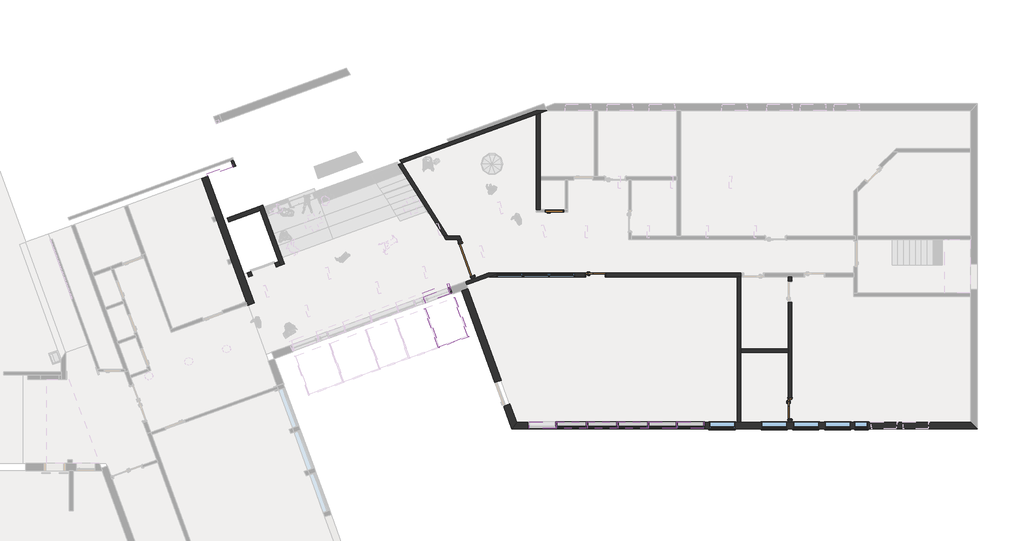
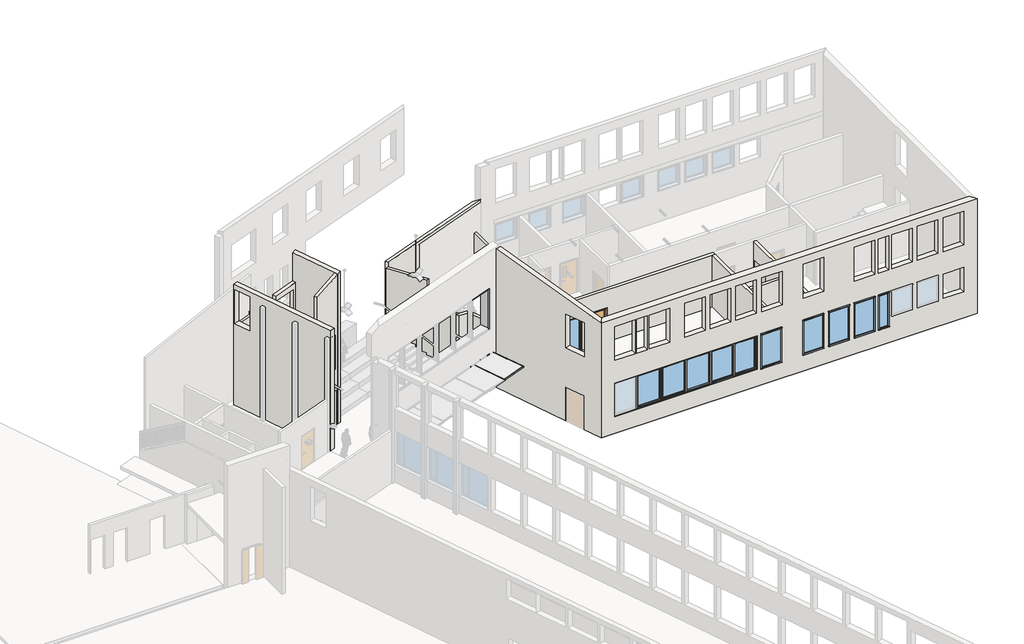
# One storey, part 10 of 13: 25 members, 18 walls, 13 windows, 4 doors.
"""IFC4 building model written with IfcOpenShell, lengths in millimetres."""

from ifc_helpers import new_model, si_unit, frame, origin, place, context, project, spatial, polyline, outline, extrude, faceted_brep, transform, mapped, element, save
from components import door_9x21_77222ef3, id_16x22m_f9a22412, m_door_id_sgl_3_1010_x_2110mm_d7484460, m_door_id_sgl_3_1010_x_2110mm_085e0de1, rectangular_mullion_100_x_500mm_ae4d4c62, rectangular_mullion_100_x_500mm_26d26932, rectangular_mullion_50_x_100mm_9513a79f, rectangular_mullion_50_x_150mm_ce27a029, rectangular_mullion_50_x_100mm_cream_3a46165d, rectangular_mullion_50_x_150mm_49e73c1b, rectangular_mullion_50_x_150mm_924c202d, rectangular_mullion_50_x_150mm_c6f09c4a, rectangular_mullion_50_x_150mm_d3e66214, rectangular_mullion_50_x_150mm_053de50f, rectangular_mullion_50_x_50mm_b0cb055a, rectangular_mullion_50_x_50mm_f585af09, rectangular_mullion_50_x_50mm_a40bebd4, curtain_wall_awning_curtain_wall_awning_7a743a13, curtain_wall_awning_curtain_wall_awning_9225a8cb, curtain_wall_awning_curtain_wall_awning_ab27b4c8, window_rec1_fixed_12x21m_bde98514, window_rec1_fixed_12x21m_d7c7a777, window_rec1_fixed_6x21m_3877b751

model = new_model("IFC4")

# Units and contexts
model_context = context("Model", 3, world=origin())
ifc_project = project(units=[si_unit("LENGTHUNIT", "METRE", prefix="MILLI")], contexts=[model_context])

# Site, building, storey
site = spatial("IfcSite", under=ifc_project)
building = spatial("IfcBuilding", under=site)
storey = spatial("IfcBuildingStorey", under=building, Name="1.0 første etg hovedbygg", Elevation=2500.0)

# Doors
placement = place(None, origin())
door_9x21_shape = door_9x21_77222ef3(model_context)
element("IfcDoor", 1, ObjectType="Innerdør Slett (Diplomat) : 9x21", at=placement, inside=storey, context=model_context, shape_type="MappedRepresentation", body=[
    mapped(door_9x21_shape, transform((48429.7093019, 11940.9054583, 2500.0), x_axis=(-1.0, 0.0, 0.0), y_axis=(0.0, -1.0, 0.0), z_axis=(0.0, 0.0, 1.0))),
])
id_16x22m_shape = id_16x22m_f9a22412(model_context)
element("IfcDoor", 2, ObjectType="Innerdør slett tofløya lite sidefelt : ID 16x22M", at=placement, inside=storey, context=model_context, shape_type="MappedRepresentation", body=[
    mapped(id_16x22m_shape, transform((43948.3575118, 10260.4000091, 2500.0), x_axis=(-0.342021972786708, 0.9396919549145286, 0.0), y_axis=(-0.9396919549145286, -0.342021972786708, 0.0), z_axis=(0.0, 0.0, 1.0))),
])
m_door_id_sgl_3_1010_x_2110mm_shape = m_door_id_sgl_3_1010_x_2110mm_d7484460(model_context)
element("IfcDoor", 3, ObjectType="M_Door_ID_Sgl_3 : 1010 x 2110mm", at=placement, inside=storey, context=model_context, shape_type="MappedRepresentation", body=[
    mapped(m_door_id_sgl_3_1010_x_2110mm_shape, transform((50343.7018507, 8873.9592903, 2500.0), x_axis=(1.0, 0.0, 0.0), y_axis=(0.0, 1.0, 0.0), z_axis=(0.0, 0.0, 1.0))),
])
m_door_id_sgl_3_1010_x_2110mm_2_shape = m_door_id_sgl_3_1010_x_2110mm_085e0de1(model_context)
element("IfcDoor", 4, ObjectType="M_Door_ID_Sgl_3 : 1010 x 2110mm", at=placement, inside=storey, context=model_context, shape_type="MappedRepresentation", body=[
    mapped(m_door_id_sgl_3_1010_x_2110mm_2_shape, transform((59618.8383642, 2482.166916, 2500.0), x_axis=(0.0, -1.0, 0.0), y_axis=(1.0, 0.0, 0.0), z_axis=(0.0, 0.0, 1.0))),
])

# Members
rectangular_mullion_100_x_500mm_shape = rectangular_mullion_100_x_500mm_ae4d4c62(model_context)
element("IfcMember", 5, ObjectType="Rectangular Mullion : 100 x 500mm", at=placement, inside=storey, context=model_context, shape_type="MappedRepresentation", body=[
    mapped(rectangular_mullion_100_x_500mm_shape, transform((43367.7983629, 8093.0772254, 8970.0), x_axis=(0.0, 0.0, 1.0), y_axis=(0.34202190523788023, -0.9396919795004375, 0.0), z_axis=(0.9396919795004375, 0.34202190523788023, 0.0))),
])
rectangular_mullion_100_x_500mm_2_shape = rectangular_mullion_100_x_500mm_26d26932(model_context)
element("IfcMember", 6, ObjectType="Rectangular Mullion : 100 x 500mm", at=placement, inside=storey, context=model_context, shape_type="MappedRepresentation", body=[
    mapped(rectangular_mullion_100_x_500mm_2_shape, transform((43461.7675608, 8127.2794159, 6370.0), x_axis=(0.9396919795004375, 0.3420219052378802, 0.0), y_axis=(0.3420219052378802, -0.9396919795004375, 0.0), z_axis=(0.0, 0.0, -1.0))),
])
rectangular_mullion_50_x_100mm_shape = rectangular_mullion_50_x_100mm_9513a79f(model_context)
element("IfcMember", 7, ObjectType="Rectangular Mullion : 50 x 100mm", at=placement, inside=storey, context=model_context, shape_type="MappedRepresentation", body=[
    mapped(rectangular_mullion_50_x_100mm_shape, transform((55557.4308909, 1682.166916, 3550.0), x_axis=(1.0, 0.0, 0.0), y_axis=(0.0, -1.0, 0.0), z_axis=(0.0, 0.0, -1.0))),
])
rectangular_mullion_50_x_150mm_shape = rectangular_mullion_50_x_150mm_ce27a029(model_context)
element("IfcMember", 8, ObjectType="Rectangular Mullion : 50 x 150mm", at=placement, inside=storey, context=model_context, shape_type="MappedRepresentation", body=[
    mapped(rectangular_mullion_50_x_150mm_shape, transform((49908.4986711, 1682.166916, 5650.0), x_axis=(0.0, 0.0, 1.0), y_axis=(0.0, -1.0, 0.0), z_axis=(1.0, 0.0, 0.0))),
])
element("IfcMember", 9, ObjectType="Rectangular Mullion : 50 x 150mm", at=placement, inside=storey, context=model_context, shape_type="MappedRepresentation", body=[
    mapped(rectangular_mullion_50_x_150mm_shape, transform((51364.4986711, 1682.166916, 5650.0), x_axis=(0.0, 0.0, 1.0), y_axis=(0.0, -1.0, 0.0), z_axis=(1.0, 0.0, 0.0))),
])
element("IfcMember", 10, ObjectType="Rectangular Mullion : 50 x 150mm", at=placement, inside=storey, context=model_context, shape_type="MappedRepresentation", body=[
    mapped(rectangular_mullion_50_x_150mm_shape, transform((52820.4986711, 1682.166916, 5650.0), x_axis=(0.0, 0.0, 1.0), y_axis=(0.0, -1.0, 0.0), z_axis=(1.0, 0.0, 0.0))),
])
element("IfcMember", 11, ObjectType="Rectangular Mullion : 50 x 150mm", at=placement, inside=storey, context=model_context, shape_type="MappedRepresentation", body=[
    mapped(rectangular_mullion_50_x_150mm_shape, transform((48502.4986711, 1682.166916, 3550.0), x_axis=(0.0, 0.0, -1.0), y_axis=(0.0, -1.0, 0.0), z_axis=(-1.0, 0.0, 0.0))),
])
element("IfcMember", 12, ObjectType="Rectangular Mullion : 50 x 150mm", at=placement, inside=storey, context=model_context, shape_type="MappedRepresentation", body=[
    mapped(rectangular_mullion_50_x_150mm_shape, transform((49958.4986711, 1682.166916, 3550.0), x_axis=(0.0, 0.0, -1.0), y_axis=(0.0, -1.0, 0.0), z_axis=(-1.0, 0.0, 0.0))),
])
element("IfcMember", 13, ObjectType="Rectangular Mullion : 50 x 150mm", at=placement, inside=storey, context=model_context, shape_type="MappedRepresentation", body=[
    mapped(rectangular_mullion_50_x_150mm_shape, transform((51414.4986711, 1682.166916, 3550.0), x_axis=(0.0, 0.0, -1.0), y_axis=(0.0, -1.0, 0.0), z_axis=(-1.0, 0.0, 0.0))),
])
rectangular_mullion_50_x_100mm_cream_shape = rectangular_mullion_50_x_100mm_cream_3a46165d(model_context)
element("IfcMember", 14, ObjectType="Rectangular Mullion : 50 x 150mm", at=placement, inside=storey, context=model_context, shape_type="MappedRepresentation", body=[
    mapped(rectangular_mullion_50_x_100mm_cream_shape, transform((43414.7829618, 8110.1783206, 4900.0), x_axis=(0.0, 0.0, 1.0), y_axis=(0.34202190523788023, -0.9396919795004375, 0.0), z_axis=(0.9396919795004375, 0.34202190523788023, 0.0))),
])
rectangular_mullion_50_x_150mm_2_shape = rectangular_mullion_50_x_150mm_49e73c1b(model_context)
element("IfcMember", 15, ObjectType="Rectangular Mullion : 50 x 150mm", at=placement, inside=storey, context=model_context, shape_type="MappedRepresentation", body=[
    mapped(rectangular_mullion_50_x_150mm_2_shape, transform((43461.7675608, 8127.2794159, 2500.0), x_axis=(0.9396919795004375, 0.3420219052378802, 0.0), y_axis=(0.3420219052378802, -0.9396919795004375, 0.0), z_axis=(0.0, 0.0, -1.0))),
])
rectangular_mullion_50_x_150mm_3_shape = rectangular_mullion_50_x_150mm_924c202d(model_context)
element("IfcMember", 16, ObjectType="Rectangular Mullion : 50 x 150mm", at=placement, inside=storey, context=model_context, shape_type="MappedRepresentation", body=[
    mapped(rectangular_mullion_50_x_150mm_3_shape, transform((48477.4986711, 1682.166916, 3550.0), x_axis=(1.0, 0.0, 0.0), y_axis=(0.0, -1.0, 0.0), z_axis=(0.0, 0.0, -1.0))),
])
element("IfcMember", 17, ObjectType="Rectangular Mullion : 50 x 150mm", at=placement, inside=storey, context=model_context, shape_type="MappedRepresentation", body=[
    mapped(rectangular_mullion_50_x_150mm_3_shape, transform((49933.4986711, 1682.166916, 3550.0), x_axis=(1.0, 0.0, 0.0), y_axis=(0.0, -1.0, 0.0), z_axis=(0.0, 0.0, -1.0))),
])
element("IfcMember", 18, ObjectType="Rectangular Mullion : 50 x 150mm", at=placement, inside=storey, context=model_context, shape_type="MappedRepresentation", body=[
    mapped(rectangular_mullion_50_x_150mm_3_shape, transform((51389.4986711, 1682.166916, 3550.0), x_axis=(1.0, 0.0, 0.0), y_axis=(0.0, -1.0, 0.0), z_axis=(0.0, 0.0, -1.0))),
])
element("IfcMember", 19, ObjectType="Rectangular Mullion : 50 x 150mm", at=placement, inside=storey, context=model_context, shape_type="MappedRepresentation", body=[
    mapped(rectangular_mullion_50_x_150mm_3_shape, transform((54222.5695797, 1682.166916, 3550.0), x_axis=(1.0, 0.0, 0.0), y_axis=(0.0, -1.0, 0.0), z_axis=(0.0, 0.0, -1.0))),
])
element("IfcMember", 20, ObjectType="Rectangular Mullion : 50 x 150mm", at=placement, inside=storey, context=model_context, shape_type="MappedRepresentation", body=[
    mapped(rectangular_mullion_50_x_150mm_3_shape, transform((52845.4986711, 1682.166916, 3550.0), x_axis=(1.0, 0.0, 0.0), y_axis=(0.0, -1.0, 0.0), z_axis=(0.0, 0.0, -1.0))),
])
rectangular_mullion_50_x_150mm_4_shape = rectangular_mullion_50_x_150mm_c6f09c4a(model_context)
element("IfcMember", 21, ObjectType="Rectangular Mullion : 50 x 150mm", at=placement, inside=storey, context=model_context, shape_type="MappedRepresentation", body=[
    mapped(rectangular_mullion_50_x_150mm_4_shape, transform((54197.5695797, 1682.166916, 5650.0), x_axis=(0.0, 0.0, 1.0), y_axis=(0.0, -1.0, 0.0), z_axis=(1.0, 0.0, 0.0))),
])
element("IfcMember", 22, ObjectType="Rectangular Mullion : 50 x 150mm", at=placement, inside=storey, context=model_context, shape_type="MappedRepresentation", body=[
    mapped(rectangular_mullion_50_x_150mm_4_shape, transform((52870.4986711, 1682.166916, 3550.0), x_axis=(0.0, 0.0, -1.0), y_axis=(0.0, -1.0, 0.0), z_axis=(-1.0, 0.0, 0.0))),
])
rectangular_mullion_50_x_150mm_5_shape = rectangular_mullion_50_x_150mm_d3e66214(model_context)
element("IfcMember", 23, ObjectType="Rectangular Mullion : 50 x 150mm", at=placement, inside=storey, context=model_context, shape_type="MappedRepresentation", body=[
    mapped(rectangular_mullion_50_x_150mm_5_shape, transform((55507.4308909, 1682.166916, 5650.0), x_axis=(0.0, 0.0, 1.0), y_axis=(0.0, -1.0, 0.0), z_axis=(1.0, 0.0, 0.0))),
])
element("IfcMember", 24, ObjectType="Rectangular Mullion : 50 x 150mm", at=placement, inside=storey, context=model_context, shape_type="MappedRepresentation", body=[
    mapped(rectangular_mullion_50_x_150mm_5_shape, transform((54247.5695797, 1682.166916, 3550.0), x_axis=(0.0, 0.0, -1.0), y_axis=(0.0, -1.0, 0.0), z_axis=(-1.0, 0.0, 0.0))),
])
rectangular_mullion_50_x_150mm_6_shape = rectangular_mullion_50_x_150mm_053de50f(model_context)
element("IfcMember", 25, ObjectType="Rectangular Mullion : 50 x 150mm", at=placement, inside=storey, context=model_context, shape_type="MappedRepresentation", body=[
    mapped(rectangular_mullion_50_x_150mm_6_shape, transform((48452.4986711, 1682.166916, 5650.0), x_axis=(0.0, 0.0, 1.0), y_axis=(0.0, -1.0, 0.0), z_axis=(1.0, 0.0, 0.0))),
])
rectangular_mullion_50_x_50mm_shape = rectangular_mullion_50_x_50mm_b0cb055a(model_context)
element("IfcMember", 26, ObjectType="Rectangular Mullion : 50 x 50mm", at=placement, inside=storey, context=model_context, shape_type="MappedRepresentation", body=[
    mapped(rectangular_mullion_50_x_50mm_shape, transform((42193.1833885, 7665.5498438, 2550.0), x_axis=(0.9396919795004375, 0.3420219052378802, 0.0), y_axis=(0.3420219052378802, -0.9396919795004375, 0.0), z_axis=(0.0, 0.0, -1.0))),
])
rectangular_mullion_50_x_50mm_2_shape = rectangular_mullion_50_x_50mm_f585af09(model_context)
element("IfcMember", 27, ObjectType="Rectangular Mullion : 50 x 50mm", at=placement, inside=storey, context=model_context, shape_type="MappedRepresentation", body=[
    mapped(rectangular_mullion_50_x_50mm_2_shape, transform((44315.1600007, 5928.5630083, 5000.0), x_axis=(0.3420200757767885, -0.9396926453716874, 0.0), y_axis=(0.0, 0.0, -1.0), z_axis=(0.9396926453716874, 0.3420200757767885, 0.0))),
])
rectangular_mullion_50_x_50mm_3_shape = rectangular_mullion_50_x_50mm_a40bebd4(model_context)
element("IfcMember", 28, ObjectType="Rectangular Mullion : 50 x 50mm", at=placement, inside=storey, context=model_context, shape_type="MappedRepresentation", body=[
    mapped(rectangular_mullion_50_x_50mm_3_shape, transform((42227.7370717, 7278.0037703, 5000.0), x_axis=(0.9396926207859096, 0.3420201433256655, 0.0), y_axis=(0.0, 0.0, -1.0), z_axis=(-0.3420201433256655, 0.9396926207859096, 0.0))),
])
element("IfcMember", 29, ObjectType="Rectangular Mullion : 50 x 50mm", at=placement, inside=storey, context=model_context, shape_type="MappedRepresentation", body=[
    mapped(rectangular_mullion_50_x_50mm_3_shape, transform((43631.119714, 7807.9482499, 5000.0), x_axis=(0.9396926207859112, 0.3420201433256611, 0.0), y_axis=(0.0, 0.0, -1.0), z_axis=(-0.3420201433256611, 0.9396926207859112, 0.0))),
])

# Walls
element("IfcWall", 30, ObjectType="Yttervegg Tre 250 Isolert Liggende kledning 2", at=placement, inside=storey, context=model_context, shape_type="Brep", body=[
    faceted_brep([(46351.2398765, 1524.166916, 2500.0), (46351.2398765, 1524.166916, 9650.4466948), (43951.2314017, 8118.1360072, 11133.8716016), (43951.2314017, 8118.1360072, 2500.0), (45545.0440964, 3739.1716176, 2500.0), (45545.0440964, 3739.1716176, 4610.0), (45958.8884698, 2602.1435464, 4610.0), (45958.8884698, 2602.1435464, 2500.0), (45545.0440964, 3739.1716176, 9170.0), (45958.8884698, 2602.1435464, 9170.0), (45958.8884698, 2602.1435464, 7060.0), (45545.0440964, 3739.1716176, 7060.0), (44248.1740594, 8226.2149506, 11133.8717317), (46572.5054586, 1840.166916, 9697.2221842), (46572.5054586, 1840.166916, 6020.0), (44248.1740594, 8226.2149506, 6020.0), (46255.831338, 2710.2219117, 9170.0), (45841.9869645, 3847.2499829, 9170.0), (45841.9869645, 3847.2499829, 7060.0), (46255.831338, 2710.2219117, 7060.0), (46255.831338, 2710.2219117, 2500.0), (46255.831338, 2710.2219117, 4610.0), (45841.9869645, 3847.2499829, 4610.0), (45841.9869645, 3847.2499829, 2500.0), (44248.1740594, 8226.2149506, 2500.0), (44248.1740594, 8226.2149506, 5750.0), (46572.5054586, 1840.166916, 5750.0), (46572.5054586, 1840.166916, 2500.0), (46564.1029681, 1828.166916, 5750.0), (46564.1029681, 1828.166916, 6020.0), (44236.8977559, 8222.1106869, 5750.0), (44236.8977559, 8222.1106869, 6020.0)], [[[0, 1, 2, 3, 4, 5, 6, 7], [8, 9, 10, 11]], [[12, 13, 14, 15], [16, 17, 18, 19]], [[20, 21, 22, 23, 24, 25, 26, 27]], [[1, 0, 27, 26, 28, 29, 14, 13]], [[3, 24, 23, 4]], [[27, 0, 7, 20]], [[2, 1, 13, 12]], [[30, 28, 26, 25]], [[29, 31, 15, 14]], [[28, 30, 31, 29]], [[9, 8, 17, 16]], [[10, 9, 16, 19]], [[11, 10, 19, 18]], [[8, 11, 18, 17]], [[3, 2, 12, 15, 31, 30, 25, 24]], [[7, 6, 21, 20]], [[5, 4, 23, 22]], [[6, 5, 22, 21]]]),
])
element("IfcWall", 31, ObjectType="Yttervegg Tre 250 Isolert Liggende kledning 2", at=placement, inside=storey, context=model_context, shape_type="Brep", body=[
    faceted_brep([(46351.2398765, 1524.166916, 2500.0), (68558.8383642, 1524.166916, 2500.0), (68558.8383642, 1524.166916, 9644.8914432), (46351.2398765, 1524.166916, 9644.8914432), (65010.8383642, 1524.166916, 5650.0), (66220.8383642, 1524.166916, 5650.0), (66220.8383642, 1524.166916, 4140.0), (65010.8383642, 1524.166916, 4140.0), (58262.8383642, 1524.166916, 5650.0), (59472.8383642, 1524.166916, 5650.0), (59472.8383642, 1524.166916, 3540.0), (58262.8383642, 1524.166916, 3540.0), (55779.4308909, 1524.166916, 5650.0), (56989.4308909, 1524.166916, 5650.0), (56989.4308909, 1524.166916, 3540.0), (55779.4308909, 1524.166916, 3540.0), (47141.6718408, 1524.166916, 3550.0), (47141.6718408, 1524.166916, 5650.0), (55557.4308909, 1524.166916, 5650.0), (55557.4308909, 1524.166916, 3550.0), (47156.8246588, 1524.166916, 7060.0), (47156.8246588, 1524.166916, 9170.0), (48366.8246588, 1524.166916, 9170.0), (48366.8246588, 1524.166916, 7060.0), (49176.8246588, 1524.166916, 7060.0), (49176.8246588, 1524.166916, 9170.0), (50386.8246588, 1524.166916, 9170.0), (50386.8246588, 1524.166916, 7060.0), (51276.8246588, 1524.166916, 7060.0), (51276.8246588, 1524.166916, 9170.0), (52486.8246588, 1524.166916, 9170.0), (52486.8246588, 1524.166916, 7060.0), (54306.8246588, 1524.166916, 7060.0), (54306.8246588, 1524.166916, 9170.0), (55516.8246588, 1524.166916, 9170.0), (55516.8246588, 1524.166916, 7060.0), (55821.4308909, 1524.166916, 7060.0), (55821.4308909, 1524.166916, 9170.0), (57031.4308909, 1524.166916, 9170.0), (57031.4308909, 1524.166916, 7060.0), (58262.8383642, 1524.166916, 7060.0), (58262.8383642, 1524.166916, 9170.0), (59472.8383642, 1524.166916, 9170.0), (59472.8383642, 1524.166916, 7060.0), (61292.8383642, 1524.166916, 7060.0), (61292.8383642, 1524.166916, 9170.0), (62502.8383642, 1524.166916, 9170.0), (62502.8383642, 1524.166916, 7060.0), (63495.8383642, 1524.166916, 7060.0), (63495.8383642, 1524.166916, 9170.0), (64705.8383642, 1524.166916, 9170.0), (64705.8383642, 1524.166916, 7060.0), (59777.8383642, 1524.166916, 5650.0), (60987.8383642, 1524.166916, 5650.0), (60987.8383642, 1524.166916, 3540.0), (59777.8383642, 1524.166916, 3540.0), (66525.8383642, 1524.166916, 5650.0), (67735.8383642, 1524.166916, 5650.0), (67735.8383642, 1524.166916, 4140.0), (66525.8383642, 1524.166916, 4140.0), (52791.8246588, 1524.166916, 9170.0), (54001.8246588, 1524.166916, 9170.0), (54001.8246588, 1524.166916, 7060.0), (52791.8246588, 1524.166916, 7060.0), (65010.8383642, 1524.166916, 9170.0), (66220.8383642, 1524.166916, 9170.0), (66220.8383642, 1524.166916, 7060.0), (65010.8383642, 1524.166916, 7060.0), (66525.8383642, 1524.166916, 9170.0), (67735.8383642, 1524.166916, 9170.0), (67735.8383642, 1524.166916, 7060.0), (66525.8383642, 1524.166916, 7060.0), (61292.8383642, 1524.166916, 5650.0), (62502.8383642, 1524.166916, 5650.0), (62502.8383642, 1524.166916, 3540.0), (61292.8383642, 1524.166916, 3540.0), (63495.8383642, 1524.166916, 5650.0), (64705.8383642, 1524.166916, 5650.0), (64705.8383642, 1524.166916, 4140.0), (63495.8383642, 1524.166916, 4140.0), (48456.8246588, 1524.166916, 9170.0), (49066.8246588, 1524.166916, 9170.0), (49066.8246588, 1524.166916, 7060.0), (48456.8246588, 1524.166916, 7060.0), (62706.8246588, 1524.166916, 9170.0), (63316.8246588, 1524.166916, 9170.0), (63316.8246588, 1524.166916, 7060.0), (62706.8246588, 1524.166916, 7060.0), (62706.8246588, 1524.166916, 5650.0), (63316.8246588, 1524.166916, 5650.0), (63316.8246588, 1524.166916, 3540.0), (62706.8246588, 1524.166916, 3540.0), (46572.5054586, 1840.166916, 9734.31043), (68242.8383642, 1840.166916, 9734.31043), (68242.8383642, 1840.166916, 6020.0), (46572.5054586, 1840.166916, 6020.0), (48366.8246588, 1840.166916, 9170.0), (47156.8246588, 1840.166916, 9170.0), (47156.8246588, 1840.166916, 7060.0), (48366.8246588, 1840.166916, 7060.0), (50386.8246588, 1840.166916, 9170.0), (49176.8246588, 1840.166916, 9170.0), (49176.8246588, 1840.166916, 7060.0), (50386.8246588, 1840.166916, 7060.0), (52486.8246588, 1840.166916, 9170.0), (51276.8246588, 1840.166916, 9170.0), (51276.8246588, 1840.166916, 7060.0), (52486.8246588, 1840.166916, 7060.0), (55516.8246588, 1840.166916, 9170.0), (54306.8246588, 1840.166916, 9170.0), (54306.8246588, 1840.166916, 7060.0), (55516.8246588, 1840.166916, 7060.0), (57031.4308909, 1840.166916, 9170.0), (55821.4308909, 1840.166916, 9170.0), (55821.4308909, 1840.166916, 7060.0), (57031.4308909, 1840.166916, 7060.0), (59472.8383642, 1840.166916, 9170.0), (58262.8383642, 1840.166916, 9170.0), (58262.8383642, 1840.166916, 7060.0), (59472.8383642, 1840.166916, 7060.0), (62502.8383642, 1840.166916, 9170.0), (61292.8383642, 1840.166916, 9170.0), (61292.8383642, 1840.166916, 7060.0), (62502.8383642, 1840.166916, 7060.0), (64705.8383642, 1840.166916, 9170.0), (63495.8383642, 1840.166916, 9170.0), (63495.8383642, 1840.166916, 7060.0), (64705.8383642, 1840.166916, 7060.0), (54001.8246588, 1840.166916, 9170.0), (52791.8246588, 1840.166916, 9170.0), (52791.8246588, 1840.166916, 7060.0), (54001.8246588, 1840.166916, 7060.0), (66220.8383642, 1840.166916, 9170.0), (65010.8383642, 1840.166916, 9170.0), (65010.8383642, 1840.166916, 7060.0), (66220.8383642, 1840.166916, 7060.0), (67735.8383642, 1840.166916, 9170.0), (66525.8383642, 1840.166916, 9170.0), (66525.8383642, 1840.166916, 7060.0), (67735.8383642, 1840.166916, 7060.0), (49066.8246588, 1840.166916, 9170.0), (48456.8246588, 1840.166916, 9170.0), (48456.8246588, 1840.166916, 7060.0), (49066.8246588, 1840.166916, 7060.0), (63316.8246588, 1840.166916, 9170.0), (62706.8246588, 1840.166916, 9170.0), (62706.8246588, 1840.166916, 7060.0), (63316.8246588, 1840.166916, 7060.0), (68242.8383642, 1840.166916, 2500.0), (59704.8383642, 1840.166916, 2500.0), (59532.8383642, 1840.166916, 2500.0), (57263.4308909, 1840.166916, 2500.0), (57091.4308909, 1840.166916, 2500.0), (46572.5054586, 1840.166916, 2500.0), (46572.5054586, 1840.166916, 5750.0), (57091.4308909, 1840.166916, 5750.0), (57263.4308909, 1840.166916, 5750.0), (59532.8383642, 1840.166916, 5750.0), (59704.8383642, 1840.166916, 5750.0), (68242.8383642, 1840.166916, 5750.0), (66220.8383642, 1840.166916, 5650.0), (65010.8383642, 1840.166916, 5650.0), (65010.8383642, 1840.166916, 4140.0), (66220.8383642, 1840.166916, 4140.0), (59472.8383642, 1840.166916, 5650.0), (58262.8383642, 1840.166916, 5650.0), (58262.8383642, 1840.166916, 3540.0), (59472.8383642, 1840.166916, 3540.0), (56989.4308909, 1840.166916, 5650.0), (55779.4308909, 1840.166916, 5650.0), (55779.4308909, 1840.166916, 3540.0), (56989.4308909, 1840.166916, 3540.0), (47141.6718408, 1840.166916, 5650.0), (47141.6718408, 1840.166916, 3550.0), (55557.4308909, 1840.166916, 3550.0), (55557.4308909, 1840.166916, 5650.0), (60987.8383642, 1840.166916, 5650.0), (59777.8383642, 1840.166916, 5650.0), (59777.8383642, 1840.166916, 3540.0), (60987.8383642, 1840.166916, 3540.0), (67735.8383642, 1840.166916, 5650.0), (66525.8383642, 1840.166916, 5650.0), (66525.8383642, 1840.166916, 4140.0), (67735.8383642, 1840.166916, 4140.0), (62502.8383642, 1840.166916, 5650.0), (61292.8383642, 1840.166916, 5650.0), (61292.8383642, 1840.166916, 3540.0), (62502.8383642, 1840.166916, 3540.0), (64705.8383642, 1840.166916, 5650.0), (63495.8383642, 1840.166916, 5650.0), (63495.8383642, 1840.166916, 4140.0), (64705.8383642, 1840.166916, 4140.0), (63316.8246588, 1840.166916, 5650.0), (62706.8246588, 1840.166916, 5650.0), (62706.8246588, 1840.166916, 3540.0), (63316.8246588, 1840.166916, 3540.0), (46564.1029681, 1828.166916, 6020.0), (46564.1029681, 1828.166916, 5750.0), (68242.8383642, 1828.166916, 5750.0), (68242.8383642, 1828.166916, 6020.0)], [[[0, 1, 2, 3], [4, 5, 6, 7], [8, 9, 10, 11], [12, 13, 14, 15], [16, 17, 18, 19], [20, 21, 22, 23], [24, 25, 26, 27], [28, 29, 30, 31], [32, 33, 34, 35], [36, 37, 38, 39], [40, 41, 42, 43], [44, 45, 46, 47], [48, 49, 50, 51], [52, 53, 54, 55], [56, 57, 58, 59], [60, 61, 62, 63], [64, 65, 66, 67], [68, 69, 70, 71], [72, 73, 74, 75], [76, 77, 78, 79], [80, 81, 82, 83], [84, 85, 86, 87], [88, 89, 90, 91]], [[92, 93, 94, 95], [96, 97, 98, 99], [100, 101, 102, 103], [104, 105, 106, 107], [108, 109, 110, 111], [112, 113, 114, 115], [116, 117, 118, 119], [120, 121, 122, 123], [124, 125, 126, 127], [128, 129, 130, 131], [132, 133, 134, 135], [136, 137, 138, 139], [140, 141, 142, 143], [144, 145, 146, 147]], [[148, 149, 150, 151, 152, 153, 154, 155, 156, 157, 158, 159], [160, 161, 162, 163], [164, 165, 166, 167], [168, 169, 170, 171], [172, 173, 174, 175], [176, 177, 178, 179], [180, 181, 182, 183], [184, 185, 186, 187], [188, 189, 190, 191], [192, 193, 194, 195]], [[1, 0, 153, 152, 151, 150, 149, 148]], [[0, 3, 92, 95, 196, 197, 154, 153]], [[2, 1, 148, 159, 94, 93]], [[5, 4, 161, 160]], [[6, 5, 160, 163]], [[7, 6, 163, 162]], [[4, 7, 162, 161]], [[9, 8, 165, 164]], [[10, 9, 164, 167]], [[11, 10, 167, 166]], [[8, 11, 166, 165]], [[13, 12, 169, 168]], [[14, 13, 168, 171]], [[15, 14, 171, 170]], [[12, 15, 170, 169]], [[16, 173, 172, 17]], [[17, 172, 175, 18]], [[174, 19, 18, 175]], [[173, 16, 19, 174]], [[97, 96, 22, 21]], [[20, 98, 97, 21]], [[98, 20, 23, 99]], [[99, 23, 22, 96]], [[101, 100, 26, 25]], [[24, 102, 101, 25]], [[102, 24, 27, 103]], [[103, 27, 26, 100]], [[105, 104, 30, 29]], [[28, 106, 105, 29]], [[106, 28, 31, 107]], [[107, 31, 30, 104]], [[109, 108, 34, 33]], [[32, 110, 109, 33]], [[110, 32, 35, 111]], [[111, 35, 34, 108]], [[113, 112, 38, 37]], [[36, 114, 113, 37]], [[114, 36, 39, 115]], [[115, 39, 38, 112]], [[117, 116, 42, 41]], [[40, 118, 117, 41]], [[118, 40, 43, 119]], [[119, 43, 42, 116]], [[121, 120, 46, 45]], [[44, 122, 121, 45]], [[122, 44, 47, 123]], [[123, 47, 46, 120]], [[125, 124, 50, 49]], [[48, 126, 125, 49]], [[126, 48, 51, 127]], [[127, 51, 50, 124]], [[53, 52, 177, 176]], [[54, 53, 176, 179]], [[55, 54, 179, 178]], [[52, 55, 178, 177]], [[197, 198, 159, 158, 157, 156, 155, 154]], [[199, 196, 95, 94]], [[198, 197, 196, 199]], [[3, 2, 93, 92]], [[198, 199, 94, 159]], [[57, 56, 181, 180]], [[58, 57, 180, 183]], [[59, 58, 183, 182]], [[56, 59, 182, 181]], [[129, 128, 61, 60]], [[130, 129, 60, 63]], [[131, 130, 63, 62]], [[128, 131, 62, 61]], [[133, 132, 65, 64]], [[134, 133, 64, 67]], [[135, 134, 67, 66]], [[132, 135, 66, 65]], [[137, 136, 69, 68]], [[138, 137, 68, 71]], [[139, 138, 71, 70]], [[136, 139, 70, 69]], [[73, 72, 185, 184]], [[74, 73, 184, 187]], [[75, 74, 187, 186]], [[72, 75, 186, 185]], [[77, 76, 189, 188]], [[78, 77, 188, 191]], [[79, 78, 191, 190]], [[76, 79, 190, 189]], [[80, 141, 140, 81]], [[141, 80, 83, 142]], [[142, 83, 82, 143]], [[81, 140, 143, 82]], [[145, 144, 85, 84]], [[146, 145, 84, 87]], [[147, 146, 87, 86]], [[144, 147, 86, 85]], [[193, 192, 89, 88]], [[194, 193, 88, 91]], [[195, 194, 91, 90]], [[192, 195, 90, 89]]]),
])
element("IfcWall", 32, ObjectType="Innervegg Tre 148", at=placement, inside=storey, context=model_context, shape_type="Brep", body=[
    faceted_brep([(45737.6865272, 8959.9592903, 5750.0), (45265.1204111, 8787.9592903, 5750.0), (44038.1215997, 8341.3682454, 5750.0), (44038.1215997, 8341.3682454, 2500.0), (45265.1204111, 8787.9592903, 2500.0), (45638.4308909, 8923.8331931, 2500.0), (45638.4308909, 8923.8331931, 4600.0), (45737.6865272, 8959.9592903, 4600.0), (45234.7921704, 8959.9592903, 2500.0), (44597.6119769, 8728.044666, 2500.0), (44435.9848461, 8669.2172013, 2500.0), (43979.294135, 8502.9953762, 2500.0), (43979.294135, 8502.9953762, 5750.0), (44435.9848461, 8669.2172013, 5750.0), (44597.6119769, 8728.044666, 5750.0), (45234.7921704, 8959.9592903, 5750.0), (45638.4308909, 8959.9592903, 2500.0), (45638.4308909, 8959.9592903, 4600.0)], [[[0, 1, 2, 3, 4, 5, 6, 7]], [[8, 9, 10, 11, 12, 13, 14, 15]], [[11, 10, 9, 8, 16, 5, 4, 3]], [[2, 1, 0, 15, 14, 13, 12]], [[3, 2, 12, 11]], [[8, 15, 0, 7, 17, 16]], [[6, 17, 7]], [[17, 6, 5, 16]]]),
])
element("IfcWall", 33, ObjectType="Innervegg Tre 148", at=placement, inside=storey, context=model_context, shape_type="Brep", body=[
    faceted_brep([(57263.4308909, 8787.9592903, 5750.0), (57091.4308909, 8787.9592903, 5750.0), (45265.1204111, 8787.9592903, 5750.0), (45265.1204111, 8787.9592903, 2500.0), (45638.4308909, 8787.9592903, 2500.0), (45638.4308909, 8787.9592903, 4600.0), (46848.4308909, 8787.9592903, 4600.0), (46848.4308909, 8787.9592903, 2500.0), (46898.4308909, 8787.9592903, 2500.0), (46898.4308909, 8787.9592903, 4600.0), (48108.4308909, 8787.9592903, 4600.0), (48108.4308909, 8787.9592903, 2500.0), (48128.7018507, 8787.9592903, 2500.0), (48128.7018507, 8787.9592903, 4600.0), (49338.7018507, 8787.9592903, 4600.0), (49338.7018507, 8787.9592903, 2500.0), (49838.7018507, 8787.9592903, 2500.0), (49838.7018507, 8787.9592903, 4610.0), (50848.7018507, 8787.9592903, 4610.0), (50848.7018507, 8787.9592903, 2500.0), (57091.4308909, 8787.9592903, 2500.0), (57263.4308909, 8787.9592903, 2500.0), (45737.6865272, 8959.9592903, 5750.0), (57263.4308909, 8959.9592903, 5750.0), (57263.4308909, 8959.9592903, 2500.0), (50848.7018507, 8959.9592903, 2500.0), (50848.7018507, 8959.9592903, 4610.0), (49838.7018507, 8959.9592903, 4610.0), (49838.7018507, 8959.9592903, 2500.0), (49338.7018507, 8959.9592903, 2500.0), (49338.7018507, 8959.9592903, 4600.0), (48128.7018507, 8959.9592903, 4600.0), (48128.7018507, 8959.9592903, 2500.0), (48108.4308909, 8959.9592903, 2500.0), (48108.4308909, 8959.9592903, 4600.0), (46898.4308909, 8959.9592903, 4600.0), (46898.4308909, 8959.9592903, 2500.0), (46848.4308909, 8959.9592903, 2500.0), (46848.4308909, 8959.9592903, 4600.0), (45737.6865272, 8959.9592903, 4600.0), (45638.4308909, 8923.8331931, 2500.0), (45638.4308909, 8923.8331931, 4600.0)], [[[0, 1, 2, 3, 4, 5, 6, 7, 8, 9, 10, 11, 12, 13, 14, 15, 16, 17, 18, 19, 20, 21]], [[22, 23, 24, 25, 26, 27, 28, 29, 30, 31, 32, 33, 34, 35, 36, 37, 38, 39]], [[25, 24, 21, 20, 19]], [[28, 16, 15, 29]], [[4, 3, 40]], [[7, 37, 36, 8]], [[32, 12, 11, 33]], [[2, 1, 0, 23, 22]], [[3, 2, 22, 39, 41, 40]], [[19, 18, 26, 25]], [[18, 17, 27, 26]], [[17, 16, 28, 27]], [[0, 21, 24, 23]], [[38, 6, 5, 41, 39]], [[41, 5, 4, 40]], [[6, 38, 37, 7]], [[34, 10, 9, 35]], [[35, 9, 8, 36]], [[10, 34, 33, 11]], [[30, 14, 13, 31]], [[31, 13, 12, 32]], [[14, 30, 29, 15]]]),
])
element("IfcWall", 34, ObjectType="Innervegg Betong - Massiv 200mm", at=placement, inside=storey, context=model_context, shape_type="Brep", body=[
    faceted_brep([(33793.6427942, 8778.9180346, 11262.597546), (33793.6427942, 8778.9180346, 2500.0), (33974.6457861, 8844.7167236, 2500.0), (33974.6457861, 8844.7167236, 4625.4), (35114.3748858, 9259.034077, 4625.4), (35114.3748858, 9259.034077, 2500.0), (35297.4495983, 9325.5858834, 2500.0), (35297.4495983, 9325.5858834, 11844.9817948), (35114.3748858, 9259.034077, 6020.0), (33974.6457861, 8844.7167236, 6020.0), (33974.6457861, 8844.7167236, 8145.4), (35114.3748858, 9259.034077, 8145.4), (33725.3130584, 8966.8835825, 2500.0), (33725.3130584, 8966.8835825, 11262.6263197), (35229.0455778, 9513.5244272, 11844.9818), (35229.0455778, 9513.5244272, 2500.0), (35046.0451499, 9446.9996249, 2500.0), (35046.0451499, 9446.9996249, 4625.4), (33906.3160502, 9032.6822715, 4625.4), (33906.3160502, 9032.6822715, 2500.0), (35046.0451499, 9446.9996249, 6020.0), (35046.0451499, 9446.9996249, 8145.4), (33906.3160502, 9032.6822715, 8145.4), (33906.3160502, 9032.6822715, 6020.0)], [[[0, 1, 2, 3, 4, 5, 6, 7], [8, 9, 10, 11]], [[12, 13, 14, 15, 16, 17, 18, 19], [20, 21, 22, 23]], [[1, 12, 19, 2]], [[15, 6, 5, 16]], [[1, 0, 13, 12]], [[4, 17, 16, 5]], [[17, 4, 3, 18]], [[18, 3, 2, 19]], [[21, 20, 8, 11]], [[22, 21, 11, 10]], [[23, 22, 10, 9]], [[20, 23, 9, 8]], [[7, 6, 15, 14]], [[0, 7, 14, 13]]]),
])
element("IfcWall", 35, ObjectType="Innervegg Betong - Massiv 200mm", at=placement, inside=storey, context=model_context, shape_type="Brep", body=[
    faceted_brep([(35485.4150835, 9393.9158375, 2500.0), (34459.3454376, 12213.0196507, 2500.0), (34459.3454376, 12213.0196507, 11917.7759201), (35485.4150835, 9393.9158375, 11917.7758416), (35297.4765544, 9325.5118223, 2500.0), (35297.4765544, 9325.5118223, 11844.9817948), (35229.0455778, 9513.5244272, 11844.9818), (34271.4069086, 12144.6156355, 11844.9818733), (34271.4069086, 12144.6156355, 10090.0), (34271.4069086, 12144.6156355, 2500.0), (34339.8109237, 11956.6771064, 2500.0), (35229.0455778, 9513.5244272, 2500.0)], [[[0, 1, 2, 3]], [[4, 5, 6, 7, 8, 9, 10, 11]], [[1, 0, 4, 11, 10, 9]], [[2, 1, 9, 8, 7]], [[0, 3, 5, 4]], [[3, 2, 7, 6, 5]]]),
])
element("IfcWall", 36, ObjectType="Innervegg Betong - Massiv 200mm", at=placement, inside=storey, context=model_context, shape_type="SweptSolid", body=[
    extrude(outline(polyline([(-198.8936075, 0.0), (-198.8936075, -7590.0), (-1800.000174, -7590.0), (-1800.000174, 0.0), (-198.8936075, 0.0)]), holes=[polyline([(-1606.35, -1600.0), (-1606.35, -3725.4), (-393.65, -3725.4), (-393.65, -1600.0), (-1606.35, -1600.0)]), polyline([(-1606.35, -5100.0), (-1606.35, -7225.4), (-393.65, -7225.4), (-393.65, -5100.0), (-1606.35, -5100.0)])]), frame((34526.7097839, 12024.7027131, 2500.0), z_axis=(-0.3420200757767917, 0.9396926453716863, 0.0), x_axis=(0.9396926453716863, 0.3420200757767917, 0.0)), (0.0, 0.0, 1.0), 200.0),
])
element("IfcWall", 37, ObjectType="Yttervegg 150 betong + 150 leca innv puss", at=placement, inside=storey, context=model_context, shape_type="Brep", body=[
    faceted_brep([(34052.1238548, 7534.763594, 2300.0), (31847.1199908, 13592.9619202, 2300.0), (31847.1199908, 13592.9619202, 7070.0), (31847.1199908, 13592.9619202, 9194.0), (31847.1199908, 13592.9619202, 10004.9131681), (34052.1238548, 7534.763594, 10004.9131681), (32221.712485, 12563.7775009, 7600.0), (32221.712485, 12563.7775009, 9715.0), (31876.2721402, 13512.8670479, 9715.0), (31876.2721402, 13512.8670479, 7600.0), (33760.8191424, 7428.7373496, 2300.0), (33760.8191424, 7428.7373496, 10004.9131681), (31555.8152784, 13486.9356758, 10004.9131681), (31555.8152784, 13486.9356758, 9194.0), (31555.8152784, 13486.9356758, 7070.0), (31555.8152784, 13486.9356758, 2300.0), (31930.4077726, 12457.7512564, 7600.0), (31584.9674278, 13406.8408034, 7600.0), (31584.9674278, 13406.8408034, 9715.0), (31930.4077726, 12457.7512564, 9715.0)], [[[0, 1, 2, 3, 4, 5], [6, 7, 8, 9]], [[10, 11, 12, 13, 14, 15], [16, 17, 18, 19]], [[1, 0, 10, 15]], [[5, 4, 12, 11]], [[0, 5, 11, 10]], [[17, 16, 6, 9]], [[18, 17, 9, 8]], [[19, 18, 8, 7]], [[16, 19, 7, 6]], [[1, 15, 14, 13, 12, 4, 3, 2]]]),
])
element("IfcWall", 38, ObjectType="Innervegg Tre 198", at=placement, inside=storey, context=model_context, shape_type="Brep", body=[
    faceted_brep([(32954.3267387, 14310.9488403, 2516.8949299), (33055.5647011, 14032.7998245, 2516.8949299), (33055.5647011, 14032.7998245, 4100.0), (33055.5647011, 14032.7998245, 7330.0), (33013.1542034, 14149.3217095, 7330.0), (32954.3267387, 14310.9488403, 7330.0), (33070.8486237, 14353.359338, 2516.8949299), (33070.8486237, 14353.359338, 7330.0), (33172.0865861, 14075.2103223, 7330.0), (33172.0865861, 14075.2103223, 2516.8949299)], [[[0, 1, 2, 3, 4, 5]], [[6, 7, 8, 9]], [[1, 0, 6, 9]], [[5, 4, 3, 8, 7]], [[3, 2, 1, 9, 8]], [[0, 5, 7, 6]]]),
])
element("IfcWall", 39, ObjectType="Innervegg Tre 148", at=placement, inside=storey, context=model_context, shape_type="Brep", body=[
    faceted_brep([(43203.657546, 10559.9592903, 2500.0), (43747.8068364, 10559.9592903, 2500.0), (43930.8455429, 10559.9592903, 2500.0), (43930.8455429, 10559.9592903, 5750.0), (43747.8068364, 10559.9592903, 5750.0), (43203.657546, 10559.9592903, 5750.0), (43095.0520761, 10731.9592903, 2500.0), (43095.0520761, 10731.9592903, 5750.0), (43298.4707284, 10731.9592903, 5750.0), (43868.2422834, 10731.9592903, 5750.0), (43868.2422834, 10731.9592903, 2500.0), (43298.4707284, 10731.9592903, 2500.0)], [[[0, 1, 2, 3, 4, 5]], [[6, 7, 8, 9, 10, 11]], [[2, 1, 0, 6, 11, 10]], [[5, 4, 3, 9, 8, 7]], [[0, 5, 7, 6]], [[3, 2, 10, 9]]]),
])
element("IfcWall", 40, ObjectType="Innervegg Tre 148 Isolert", at=placement, inside=storey, context=model_context, shape_type="Brep", body=[
    faceted_brep([(57091.4308909, 8787.9592903, 2500.0), (57091.4308909, 1840.166916, 2500.0), (57091.4308909, 1840.166916, 5750.0), (57091.4308909, 8787.9592903, 5750.0), (57263.4308909, 8787.9592903, 2500.0), (57263.4308909, 8787.9592903, 5750.0), (57263.4308909, 5356.3443006, 5750.0), (57263.4308909, 5184.3443006, 5750.0), (57263.4308909, 1840.166916, 5750.0), (57263.4308909, 1840.166916, 2500.0), (57263.4308909, 5184.3443006, 2500.0), (57263.4308909, 5356.3443006, 2500.0)], [[[0, 1, 2, 3]], [[4, 5, 6, 7, 8, 9, 10, 11]], [[1, 0, 4, 11, 10, 9]], [[3, 2, 8, 7, 6, 5]], [[0, 3, 5, 4]], [[2, 1, 9, 8]]]),
])
element("IfcWall", 41, ObjectType="Innervegg Tre 148", at=placement, inside=storey, context=model_context, shape_type="Brep", body=[
    faceted_brep([(40938.5871885, 14147.1828582, 2500.0), (43095.0520761, 10731.9592903, 2500.0), (43095.0520761, 10731.9592903, 5750.0), (42192.173469, 12161.8607534, 5750.0), (42192.173469, 12161.8607534, 6020.0), (42192.173469, 12161.8607534, 7330.0), (40938.5871885, 14147.1828582, 7330.0), (40938.5871885, 14147.1828582, 4100.0), (43298.4707284, 10731.9592903, 2500.0), (41103.8495994, 14207.6114307, 2500.0), (41103.8495994, 14207.6114307, 7330.0), (42357.57878, 12222.063013, 7330.0), (42357.57878, 12222.063013, 6020.0), (42357.57878, 12222.063013, 5750.0), (43298.4707284, 10731.9592903, 5750.0)], [[[0, 1, 2, 3, 4, 5, 6, 7]], [[8, 9, 10, 11, 12, 13, 14]], [[1, 0, 9, 8]], [[0, 7, 6, 10, 9]], [[2, 1, 8, 14]], [[3, 13, 12, 11, 5, 4]], [[3, 2, 14, 13]], [[6, 5, 11, 10]]]),
])
element("IfcWall", 42, ObjectType="Innervegg Tre 148", at=placement, inside=storey, context=model_context, shape_type="Brep", body=[
    faceted_brep([(47506.682149, 16731.9592903, 2500.0), (41009.9022818, 14356.39711, 2500.0), (41009.9022818, 14356.39711, 7600.0), (47506.682149, 16731.9592903, 7600.0), (47506.682149, 16731.9592903, 7200.0), (48007.5343305, 16731.9592903, 2500.0), (48007.5343305, 16731.9592903, 7600.0), (41103.8495994, 14207.6114307, 7600.0), (41103.8495994, 14207.6114307, 4100.0), (41103.8495994, 14207.6114307, 2500.0)], [[[0, 1, 2, 3, 4]], [[5, 6, 7, 8, 9]], [[1, 0, 5, 9]], [[3, 2, 7, 6]], [[2, 1, 9, 8, 7]], [[0, 4, 3, 6, 5]]]),
])
element("IfcWall", 43, ObjectType="Innervegg Tre 148 Isolert", at=placement, inside=storey, context=model_context, shape_type="Brep", body=[
    faceted_brep([(59532.8383642, 1840.166916, 5750.0), (59532.8383642, 5184.3443006, 5750.0), (59532.8383642, 5356.3443006, 5750.0), (59532.8383642, 8787.9592903, 5750.0), (59532.8383642, 8787.9592903, 2500.0), (59532.8383642, 8578.9592903, 2500.0), (59532.8383642, 8578.9592903, 4610.0), (59532.8383642, 7568.9592903, 4610.0), (59532.8383642, 7568.9592903, 2500.0), (59532.8383642, 5356.3443006, 2500.0), (59532.8383642, 5184.3443006, 2500.0), (59532.8383642, 2987.166916, 2500.0), (59532.8383642, 2987.166916, 4610.0), (59532.8383642, 1977.166916, 4610.0), (59532.8383642, 1977.166916, 2500.0), (59532.8383642, 1840.166916, 2500.0), (59704.8383642, 8787.9592903, 5750.0), (59704.8383642, 1840.166916, 5750.0), (59704.8383642, 1840.166916, 2500.0), (59704.8383642, 1977.166916, 2500.0), (59704.8383642, 1977.166916, 4610.0), (59704.8383642, 2987.166916, 4610.0), (59704.8383642, 2987.166916, 2500.0), (59704.8383642, 7568.9592903, 2500.0), (59704.8383642, 7568.9592903, 4610.0), (59704.8383642, 8578.9592903, 4610.0), (59704.8383642, 8578.9592903, 2500.0), (59704.8383642, 8787.9592903, 2500.0)], [[[0, 1, 2, 3, 4, 5, 6, 7, 8, 9, 10, 11, 12, 13, 14, 15]], [[16, 17, 18, 19, 20, 21, 22, 23, 24, 25, 26, 27]], [[18, 15, 14, 19]], [[4, 27, 26, 5]], [[8, 23, 22, 11, 10, 9]], [[3, 2, 1, 0, 17, 16]], [[0, 15, 18, 17]], [[4, 3, 16, 27]], [[25, 6, 5, 26]], [[6, 25, 24, 7]], [[7, 24, 23, 8]], [[13, 20, 19, 14]], [[20, 13, 12, 21]], [[21, 12, 11, 22]]]),
])
element("IfcWall", 44, ObjectType="Innervegg Tre 148", at=placement, inside=storey, context=model_context, shape_type="Brep", body=[
    faceted_brep([(47523.3296689, 16545.9535302, 2500.0), (47523.3296689, 12001.9054583, 2500.0), (47523.3296689, 12001.9054583, 5750.0), (47523.3296689, 16545.9535302, 5750.0), (47695.3296689, 16608.4794276, 2500.0), (47695.3296689, 16608.4794276, 5750.0), (47695.3296689, 13573.9054583, 5750.0), (47695.3296689, 13401.9054583, 5750.0), (47695.3296689, 12001.9054583, 5750.0), (47695.3296689, 12001.9054583, 2500.0), (47695.3296689, 13401.9054583, 2500.0), (47695.3296689, 13573.9054583, 2500.0)], [[[0, 1, 2, 3]], [[4, 5, 6, 7, 8, 9, 10, 11]], [[1, 0, 4, 11, 10, 9]], [[3, 2, 8, 7, 6, 5]], [[0, 3, 5, 4]], [[2, 1, 9, 8]]]),
])
element("IfcWall", 45, ObjectType="Innervegg Tre 148", at=placement, inside=storey, context=model_context, shape_type="Brep", body=[
    faceted_brep([(44435.9848461, 8669.2172013, 5750.0), (43747.8068364, 10559.9592903, 5750.0), (43747.8068364, 10559.9592903, 2500.0), (43832.6577625, 10326.8346989, 2500.0), (43832.6577625, 10326.8346989, 4720.0), (44383.3131387, 8813.9306515, 4720.0), (44383.3131387, 8813.9306515, 2500.0), (44435.9848461, 8669.2172013, 2500.0), (43930.8455429, 10559.9592903, 5750.0), (44597.6119769, 8728.044666, 5750.0), (44597.6119769, 8728.044666, 2500.0), (44544.9401549, 8872.7584308, 2500.0), (44544.9401549, 8872.7584308, 4720.0), (43994.2847787, 10385.6624782, 4720.0), (43994.2847787, 10385.6624782, 2500.0), (43930.8455429, 10559.9592903, 2500.0)], [[[0, 1, 2, 3, 4, 5, 6, 7]], [[8, 9, 10, 11, 12, 13, 14, 15]], [[10, 7, 6, 11]], [[2, 15, 14, 3]], [[1, 0, 9, 8]], [[13, 4, 3, 14]], [[4, 13, 12, 5]], [[5, 12, 11, 6]], [[0, 7, 10, 9]], [[2, 1, 8, 15]]]),
])
element("IfcWall", 46, ObjectType="Innervegg Tre 198", at=placement, inside=storey, context=model_context, shape_type="SweptSolid", body=[
    extrude(outline(polyline([(31804.709493, 13709.4838052), (33013.1542034, 14149.3217095), (33055.5647011, 14032.7998245), (31847.1199908, 13592.9619202), (31804.709493, 13709.4838052)])), frame((0.0, 0.0, 4100.0), z_axis=(0.0, 0.0, 1.0), x_axis=(1.0, 0.0, 0.0)), (0.0, 0.0, 1.0), 3230.0),
])
element("IfcWall", 47, ObjectType="Innervegg Tre 148 Isolert", at=placement, inside=storey, context=model_context, shape_type="SweptSolid", body=[
    extrude(outline(polyline([(59532.8383642, 5184.3443006), (57263.4308909, 5184.3443006), (57263.4308909, 5356.3443006), (59532.8383642, 5356.3443006), (59532.8383642, 5184.3443006)])), frame((0.0, 0.0, 2500.0), z_axis=(0.0, 0.0, 1.0), x_axis=(1.0, 0.0, 0.0)), (0.0, 0.0, 1.0), 3250.0),
])

# Windows
curtain_wall_awning_curtain_wall_awning_shape = curtain_wall_awning_curtain_wall_awning_7a743a13(model_context)
element("IfcWindow", 48, ObjectType="Curtain Wall Awning : Curtain Wall Awning", at=placement, inside=storey, context=model_context, shape_type="MappedRepresentation", body=[
    mapped(curtain_wall_awning_curtain_wall_awning_shape, transform((49205.4986711, 1682.166916, 3600.0), x_axis=(1.0, 0.0, 0.0), y_axis=(0.0, 1.0, 0.0), z_axis=(0.0, 0.0, 1.0))),
])
element("IfcWindow", 49, ObjectType="Curtain Wall Awning : Curtain Wall Awning", at=placement, inside=storey, context=model_context, shape_type="MappedRepresentation", body=[
    mapped(curtain_wall_awning_curtain_wall_awning_shape, transform((50661.4986711, 1682.166916, 3600.0), x_axis=(1.0, 0.0, 0.0), y_axis=(0.0, 1.0, 0.0), z_axis=(0.0, 0.0, 1.0))),
])
element("IfcWindow", 50, ObjectType="Curtain Wall Awning : Curtain Wall Awning", at=placement, inside=storey, context=model_context, shape_type="MappedRepresentation", body=[
    mapped(curtain_wall_awning_curtain_wall_awning_shape, transform((52117.4986711, 1682.166916, 3600.0), x_axis=(1.0, 0.0, 0.0), y_axis=(0.0, 1.0, 0.0), z_axis=(0.0, 0.0, 1.0))),
])
curtain_wall_awning_curtain_wall_awning_2_shape = curtain_wall_awning_curtain_wall_awning_9225a8cb(model_context)
element("IfcWindow", 51, ObjectType="Curtain Wall Awning : Curtain Wall Awning", at=placement, inside=storey, context=model_context, shape_type="MappedRepresentation", body=[
    mapped(curtain_wall_awning_curtain_wall_awning_2_shape, transform((53534.0341254, 1682.166916, 3600.0), x_axis=(-1.0, 0.0, 0.0), y_axis=(0.0, -1.0, 0.0), z_axis=(0.0, 0.0, 1.0))),
])
curtain_wall_awning_curtain_wall_awning_3_shape = curtain_wall_awning_curtain_wall_awning_ab27b4c8(model_context)
element("IfcWindow", 52, ObjectType="Curtain Wall Awning : Curtain Wall Awning", at=placement, inside=storey, context=model_context, shape_type="MappedRepresentation", body=[
    mapped(curtain_wall_awning_curtain_wall_awning_3_shape, transform((54877.5002353, 1682.166916, 3600.0), x_axis=(1.0, 0.0, 0.0), y_axis=(0.0, 1.0, 0.0), z_axis=(0.0, 0.0, 1.0))),
])
window_rec1_fixed_12x21m_shape = window_rec1_fixed_12x21m_bde98514(model_context)
element("IfcWindow", 53, ObjectType="Window_Rec1-Fixed : 12x21M", at=placement, inside=storey, context=model_context, shape_type="MappedRepresentation", body=[
    mapped(window_rec1_fixed_12x21m_shape, transform((58962.8383642, 1691.0039048, 2500.0), x_axis=(-1.0, 0.0, 0.0), y_axis=(0.0, -1.0, 0.0), z_axis=(0.0, 0.0, 1.0))),
])
element("IfcWindow", 54, ObjectType="Window_Rec1-Fixed : 12x21M", at=placement, inside=storey, context=model_context, shape_type="MappedRepresentation", body=[
    mapped(window_rec1_fixed_12x21m_shape, transform((56479.4308909, 1691.0039048, 2500.0), x_axis=(-1.0, 0.0, 0.0), y_axis=(0.0, -1.0, 0.0), z_axis=(0.0, 0.0, 1.0))),
])
element("IfcWindow", 55, ObjectType="Window_Rec1-Fixed : 12x21M", at=placement, inside=storey, context=model_context, shape_type="MappedRepresentation", body=[
    mapped(window_rec1_fixed_12x21m_shape, transform((60477.8383642, 1691.0039048, 2500.0), x_axis=(-1.0, 0.0, 0.0), y_axis=(0.0, -1.0, 0.0), z_axis=(0.0, 0.0, 1.0))),
])
element("IfcWindow", 56, ObjectType="Window_Rec1-Fixed : 12x21M", at=placement, inside=storey, context=model_context, shape_type="MappedRepresentation", body=[
    mapped(window_rec1_fixed_12x21m_shape, transform((61992.8383642, 1691.0039048, 2500.0), x_axis=(-1.0, 0.0, 0.0), y_axis=(0.0, -1.0, 0.0), z_axis=(0.0, 0.0, 1.0))),
])
window_rec1_fixed_12x21m_2_shape = window_rec1_fixed_12x21m_d7c7a777(model_context)
element("IfcWindow", 57, ObjectType="Window_Rec1-Fixed : 12x21M", at=placement, inside=storey, context=model_context, shape_type="MappedRepresentation", body=[
    mapped(window_rec1_fixed_12x21m_2_shape, transform((46148.4308909, 8865.1223015, 1450.0), x_axis=(1.0, 0.0, 0.0), y_axis=(0.0, 1.0, 0.0), z_axis=(0.0, 0.0, 1.0))),
])
element("IfcWindow", 58, ObjectType="Window_Rec1-Fixed : 12x21M", at=placement, inside=storey, context=model_context, shape_type="MappedRepresentation", body=[
    mapped(window_rec1_fixed_12x21m_2_shape, transform((47408.4308909, 8865.1223015, 1450.0), x_axis=(1.0, 0.0, 0.0), y_axis=(0.0, 1.0, 0.0), z_axis=(0.0, 0.0, 1.0))),
])
element("IfcWindow", 59, ObjectType="Window_Rec1-Fixed : 12x21M", at=placement, inside=storey, context=model_context, shape_type="MappedRepresentation", body=[
    mapped(window_rec1_fixed_12x21m_2_shape, transform((48638.7018507, 8865.1223015, 1450.0), x_axis=(1.0, 0.0, 0.0), y_axis=(0.0, 1.0, 0.0), z_axis=(0.0, 0.0, 1.0))),
])
window_rec1_fixed_6x21m_shape = window_rec1_fixed_6x21m_3877b751(model_context)
element("IfcWindow", 60, ObjectType="Window_Rec1-Fixed : 6x21M", at=placement, inside=storey, context=model_context, shape_type="MappedRepresentation", body=[
    mapped(window_rec1_fixed_6x21m_shape, transform((63216.8246588, 1691.0039048, 3250.0), x_axis=(1.0, 0.0, 0.0), y_axis=(0.0, 1.0, 0.0), z_axis=(0.0, 0.0, 1.0))),
])

save(model, "model.ifc")
